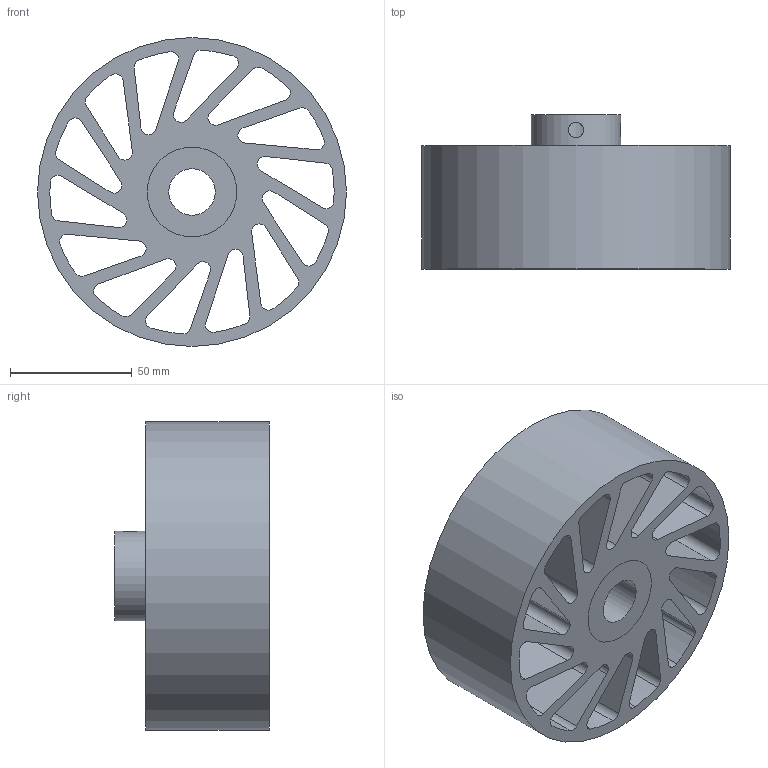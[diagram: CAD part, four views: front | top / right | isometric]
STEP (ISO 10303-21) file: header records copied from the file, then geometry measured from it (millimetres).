
FILE_DESCRIPTION(/* description */ (''),/* implementation_level */ '2;1');
FILE_NAME(/* name */ 'NCW-520-XXX-YYY.stp',/* time_stamp */ '2023-02-02T15:23:53-06:00',/* author */ ('AG'),/* organization */ ('Meridian Laboratory'),/* preprocessor_version */ 'ST-DEVELOPER v18.1',/* originating_system */ 'Autodesk Inventor 2022',/* authorisation */ '');
FILE_SCHEMA (('AUTOMOTIVE_DESIGN { 1 0 10303 214 3 1 1 }'));
Length unit declared in the file: inch
Products named in the file (1): NCW-440
Bounding box: 127 x 63.5 x 127 mm (x, y, z)
Volume: 355650.7 mm3; surface area: 112667.4 mm2
Topology: 2 solids, 2 shells, 94 faces, 276 edges, 186 vertices
Faces by surface type: cylinder 62, plane 32
Full cylindrical faces by diameter (mm): 6.35 x2, 19.075 x1, 36.83 x2, 127 x1
Entity records: 3530 total; most frequent: CARTESIAN_POINT 697, DIRECTION 576, ORIENTED_EDGE 552, EDGE_CURVE 276, AXIS2_PLACEMENT_3D 215, VERTEX_POINT 186, LINE 146, VECTOR 146
